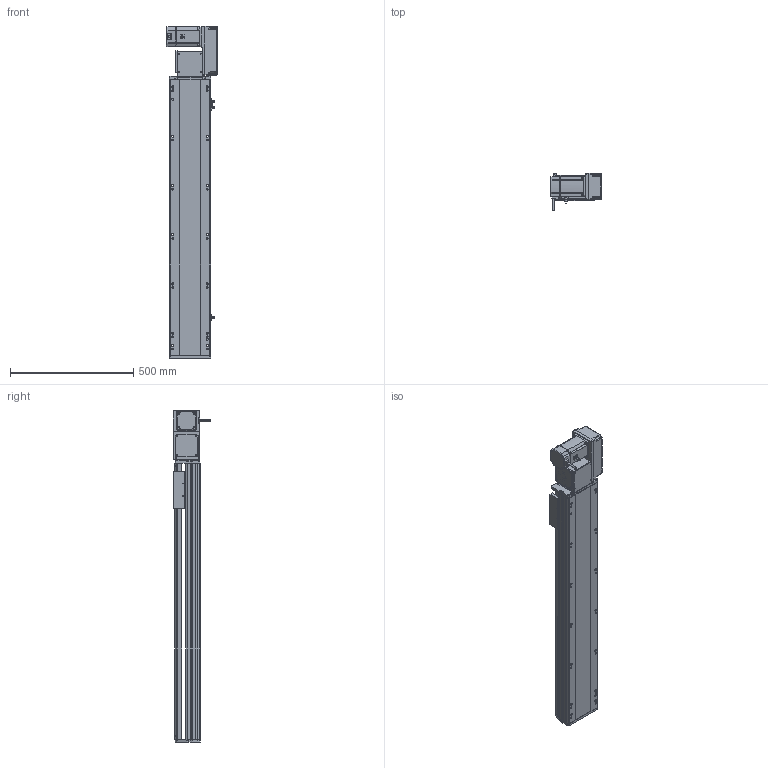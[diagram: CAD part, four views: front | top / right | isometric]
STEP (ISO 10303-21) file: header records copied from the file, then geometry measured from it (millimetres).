
FILE_DESCRIPTION (( 'STEP AP214' ), '1' );
FILE_NAME ('RTB17S-XX-850-R-M75-C4.STEP', '2025-12-12T01:34:04', ( '' ), ( '' ), 'SwSTEP 2.0', 'SolidWorks 2018', '' );
FILE_SCHEMA (( 'AUTOMOTIVE_DESIGN' ));
Length unit declared in the file: millimetre
Products named in the file (15): RTB17S-L-001-耜醱啣^RTB17S-XX-XX-R-M75-C4; RTB17S-R-々湍釱蚾饜-750W^RTB17S-XX-XX-R-M75-C4; RTB17S-L-004-賑釱^RTB17S-賑釱_RTB17S-XX-XX-R-M75-C4; EE672^RTB17S-XX-XX-R-M75-C4; 750W萇儂^RTB17S-XX-XX-R-M75-C4; RTB17S-賑釱^RTB17S-XX-XX-R-M75-C4; RTB17-R-011菁釱^RTB17S-XX-XX-R-M75-C4; RTB17S-L-014-T20-P75--々湍釱^RTB17S-R-々湍釱蚾饜-750W_RTB17S-XX-XX-R-M75-C4; RTB17S-XX-850-R-M75-C4; RTH13-BL-012覜茼え俋离^RTB17S-賑釱_RTB17S-XX-XX-R-M75-C4; RTB22S-GY-008-M75--萇儂啣^RTB17S-R-々湍釱蚾饜-750W_RTB17S-XX-XX-R-M75-C4; RTB22S-GY-005P^RTB17S-R-々湍釱蚾饜-750W_RTB17S-XX-XX-R-M75-C4; RTB22S-GY-018P^RTB17S-R-々湍釱蚾饜-750W_RTB17S-XX-XX-R-M75-C4; RTB22S-GY-017P^RTB17S-R-々湍釱蚾饜-750W_RTB17S-XX-XX-R-M75-C4; RTB17S-L-007奻裔^RTB17S-XX-XX-R-M75-C4
Assembly tree (17 placements, depth 3):
  RTB17S-XX-850-R-M75-C4
    RTB17-R-011菁釱^RTB17S-XX-XX-R-M75-C4
    EE672^RTB17S-XX-XX-R-M75-C4  x3
    RTB17S-L-001-耜醱啣^RTB17S-XX-XX-R-M75-C4
    RTB17S-賑釱^RTB17S-XX-XX-R-M75-C4
      RTB17S-L-004-賑釱^RTB17S-賑釱_RTB17S-XX-XX-R-M75-C4
      RTH13-BL-012覜茼え俋离^RTB17S-賑釱_RTB17S-XX-XX-R-M75-C4
    RTB17S-L-007奻裔^RTB17S-XX-XX-R-M75-C4
    750W萇儂^RTB17S-XX-XX-R-M75-C4
    RTB17S-R-々湍釱蚾饜-750W^RTB17S-XX-XX-R-M75-C4
      RTB17S-L-014-T20-P75--々湍釱^RTB17S-R-々湍釱蚾饜-750W_RTB17S-XX-XX-R-M75-C4
      RTB22S-GY-005P^RTB17S-R-々湍釱蚾饜-750W_RTB17S-XX-XX-R-M75-C4
      RTB22S-GY-017P^RTB17S-R-々湍釱蚾饜-750W_RTB17S-XX-XX-R-M75-C4  x2
      RTB22S-GY-008-M75--萇儂啣^RTB17S-R-々湍釱蚾饜-750W_RTB17S-XX-XX-R-M75-C4
      RTB22S-GY-018P^RTB17S-R-々湍釱蚾饜-750W_RTB17S-XX-XX-R-M75-C4
Bounding box: 207.4 x 152.7 x 1349 mm (x, y, z)
Volume: 11258223 mm3; surface area: 1888468.3 mm2
Topology: 17 solids, 17 shells, 2089 faces, 5782 edges, 3734 vertices
Faces by surface type: plane 970, cylinder 703, bspline 294, cone 110, sphere 8, torus 4
Entity records: 58102 total; most frequent: CARTESIAN_POINT 17046, ORIENTED_EDGE 8408, DIRECTION 7862, EDGE_CURVE 4204, AXIS2_PLACEMENT_3D 2754, VERTEX_POINT 2738, LINE 2354, VECTOR 2354
